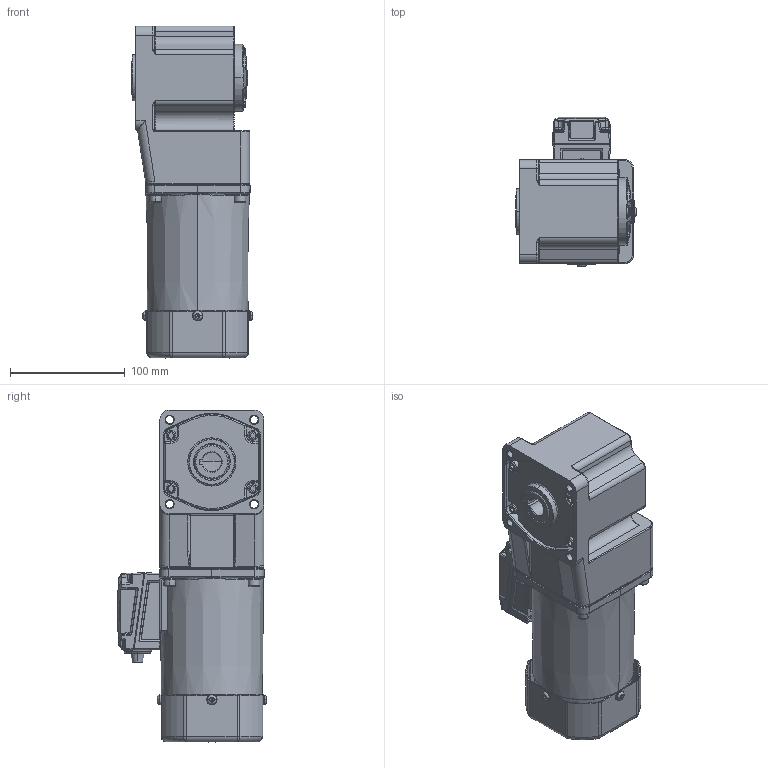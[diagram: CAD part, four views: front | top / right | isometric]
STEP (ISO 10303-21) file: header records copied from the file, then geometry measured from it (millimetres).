
FILE_DESCRIPTION( ('This file contains a STEP AP42 implementation' ,'as created by ZW3D STEP Interface translator.' ,'') ,'2;1' );
FILE_NAME( '90yt03-180.stp' ,'24 712.1114 6', (''), ('ZWCAD Software Co.'), 'Version 1.0', 'ZW3D to STEP translator', '' );
FILE_SCHEMA(('AUTOMOTIVE_DESIGN { 1 0 10303 214 1 1 1 1 }'));
Length unit declared in the file: millimetre
Products named in the file (10): 0; 90yt03-180; 90YT90G_ASM; 90YT90G_1; 90YT90G_2; YCX_6-200; 3D-JXH-150_300; 90GK-RC_ASM; 90GK-RC; FCG-90
Assembly tree (8 placements, depth 3):
  0
  90yt03-180
    90YT90G_ASM
      90YT90G_1
      90YT90G_2
      YCX_6-200
    3D-JXH-150_300
    90GK-RC_ASM
      90GK-RC
      FCG-90
Bounding box: 105.15 x 129.9 x 289.25 mm (x, y, z)
Volume: 1639221.4 mm3; surface area: 267692.5 mm2
Topology: 6 solids, 24 shells, 3472 faces, 8570 edges, 5251 vertices
Faces by surface type: plane 1204, cylinder 1030, bspline 775, torus 260, cone 129, sphere 74
Entity records: 158695 total; most frequent: CARTESIAN_POINT 77918, ORIENTED_EDGE 17104, DIRECTION 14763, EDGE_CURVE 8552, AXIS2_PLACEMENT_3D 5906, VERTEX_POINT 5251, EDGE_LOOP 3689, FACE_OUTER_BOUND 3472
